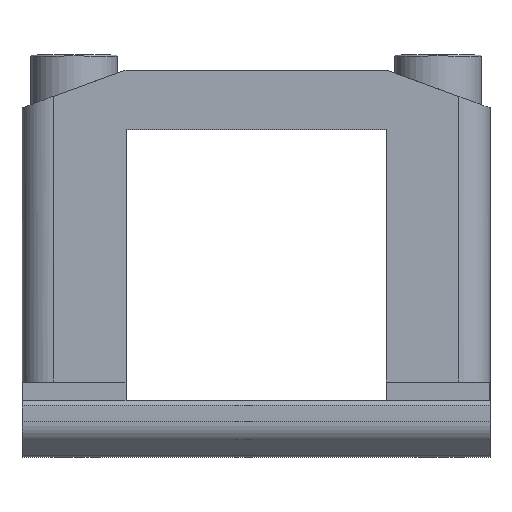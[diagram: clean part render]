
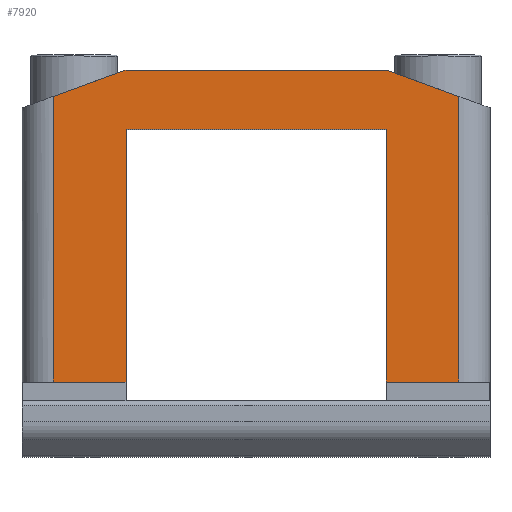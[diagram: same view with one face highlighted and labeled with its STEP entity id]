
A CAD part, top view. The second image highlights one B-rep face of the part: STEP entity #7920.
In plain terms, the highlighted planar face has unit normal (0, 0, 1).
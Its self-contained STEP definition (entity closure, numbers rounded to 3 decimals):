
#190 = DIRECTION ( 'NONE',  ( 1., 0., 0. ) ) ;
#236 = LINE ( 'NONE', #9279, #3725 ) ;
#345 = VECTOR ( 'NONE', #4403, 1000. ) ;
#505 = VECTOR ( 'NONE', #1429, 1000. ) ;
#705 = VERTEX_POINT ( 'NONE', #877 ) ;
#814 = ORIENTED_EDGE ( 'NONE', *, *, #3921, .T. ) ;
#848 = EDGE_CURVE ( 'NONE', #7275, #1673, #6896, .T. ) ;
#877 = CARTESIAN_POINT ( 'NONE',  ( 19.5, 0., 6. ) ) ;
#1048 = CARTESIAN_POINT ( 'NONE',  ( 22.5, 0., 6. ) ) ;
#1365 = LINE ( 'NONE', #8701, #8983 ) ;
#1390 = FACE_OUTER_BOUND ( 'NONE', #4429, .T. ) ;
#1392 = CARTESIAN_POINT ( 'NONE',  ( 19.5, 26.36, 6. ) ) ;
#1429 = DIRECTION ( 'NONE',  ( 0., -1., 0. ) ) ;
#1451 = ORIENTED_EDGE ( 'NONE', *, *, #3916, .T. ) ;
#1484 = VERTEX_POINT ( 'NONE', #9124 ) ;
#1488 = DIRECTION ( 'NONE',  ( -1., 0., 0. ) ) ;
#1548 = VECTOR ( 'NONE', #1695, 1000. ) ;
#1556 = VECTOR ( 'NONE', #8665, 1000. ) ;
#1673 = VERTEX_POINT ( 'NONE', #3074 ) ;
#1695 = DIRECTION ( 'NONE',  ( 1., 0., 0. ) ) ;
#1755 = CARTESIAN_POINT ( 'NONE',  ( -12.5, 24.3, 6. ) ) ;
#1879 = LINE ( 'NONE', #7858, #8586 ) ;
#1955 = CARTESIAN_POINT ( 'NONE',  ( -19.5, 27.452, 6. ) ) ;
#2204 = LINE ( 'NONE', #2313, #345 ) ;
#2313 = CARTESIAN_POINT ( 'NONE',  ( -12.5, -1.8, 6. ) ) ;
#2355 = ORIENTED_EDGE ( 'NONE', *, *, #5608, .F. ) ;
#2417 = DIRECTION ( 'NONE',  ( -1., 0., 0. ) ) ;
#2447 = VERTEX_POINT ( 'NONE', #8544 ) ;
#2542 = ORIENTED_EDGE ( 'NONE', *, *, #848, .F. ) ;
#2691 = EDGE_CURVE ( 'NONE', #1673, #2901, #1365, .T. ) ;
#2793 = CARTESIAN_POINT ( 'NONE',  ( -19.5, 0., 6. ) ) ;
#2901 = VERTEX_POINT ( 'NONE', #9301 ) ;
#2963 = CARTESIAN_POINT ( 'NONE',  ( 12.5, 30., 6. ) ) ;
#3011 = ORIENTED_EDGE ( 'NONE', *, *, #4684, .T. ) ;
#3074 = CARTESIAN_POINT ( 'NONE',  ( -12.5, 30., 6. ) ) ;
#3126 = CARTESIAN_POINT ( 'NONE',  ( 0., 0., 6. ) ) ;
#3183 = VERTEX_POINT ( 'NONE', #1755 ) ;
#3725 = VECTOR ( 'NONE', #4888, 1000. ) ;
#3813 = DIRECTION ( 'NONE',  ( -1., 0., 0. ) ) ;
#3916 = EDGE_CURVE ( 'NONE', #1484, #8818, #236, .T. ) ;
#3921 = EDGE_CURVE ( 'NONE', #7275, #9201, #6447, .T. ) ;
#4015 = EDGE_CURVE ( 'NONE', #6347, #9201, #1879, .T. ) ;
#4137 = EDGE_CURVE ( 'NONE', #6347, #3183, #2204, .T. ) ;
#4258 = EDGE_CURVE ( 'NONE', #3183, #1484, #7376, .T. ) ;
#4359 = ORIENTED_EDGE ( 'NONE', *, *, #2691, .F. ) ;
#4385 = VECTOR ( 'NONE', #6995, 1000. ) ;
#4403 = DIRECTION ( 'NONE',  ( 0., 1., 0. ) ) ;
#4429 = EDGE_LOOP ( 'NONE', ( #2542, #814, #7396, #7904, #7883, #1451, #8428, #3011, #2355, #4359 ) ) ;
#4587 = CARTESIAN_POINT ( 'NONE',  ( -12.5, 0., 6. ) ) ;
#4684 = EDGE_CURVE ( 'NONE', #705, #2447, #6220, .T. ) ;
#4888 = DIRECTION ( 'NONE',  ( 0., -1., 0. ) ) ;
#5221 = LINE ( 'NONE', #1048, #9179 ) ;
#5608 = EDGE_CURVE ( 'NONE', #2901, #2447, #8452, .T. ) ;
#6220 = LINE ( 'NONE', #1392, #4385 ) ;
#6289 = EDGE_CURVE ( 'NONE', #705, #8818, #5221, .T. ) ;
#6347 = VERTEX_POINT ( 'NONE', #4587 ) ;
#6418 = VECTOR ( 'NONE', #6446, 1000. ) ;
#6446 = DIRECTION ( 'NONE',  ( 0.94, -0.342, 0. ) ) ;
#6447 = LINE ( 'NONE', #7753, #505 ) ;
#6586 = PLANE ( 'NONE',  #7958 ) ;
#6755 = CARTESIAN_POINT ( 'NONE',  ( 12.5, 0., 6. ) ) ;
#6896 = LINE ( 'NONE', #8600, #1556 ) ;
#6995 = DIRECTION ( 'NONE',  ( 0., 1., 0. ) ) ;
#7275 = VERTEX_POINT ( 'NONE', #1955 ) ;
#7376 = LINE ( 'NONE', #8872, #1548 ) ;
#7396 = ORIENTED_EDGE ( 'NONE', *, *, #4015, .F. ) ;
#7753 = CARTESIAN_POINT ( 'NONE',  ( -19.5, 0., 6. ) ) ;
#7858 = CARTESIAN_POINT ( 'NONE',  ( 22.5, 0., 6. ) ) ;
#7883 = ORIENTED_EDGE ( 'NONE', *, *, #4258, .T. ) ;
#7904 = ORIENTED_EDGE ( 'NONE', *, *, #4137, .T. ) ;
#7920 = ADVANCED_FACE ( 'NONE', ( #1390 ), #6586, .F. ) ;
#7958 = AXIS2_PLACEMENT_3D ( 'NONE', #3126, #8114, #3813 ) ;
#8114 = DIRECTION ( 'NONE',  ( 0., 0., -1. ) ) ;
#8428 = ORIENTED_EDGE ( 'NONE', *, *, #6289, .F. ) ;
#8452 = LINE ( 'NONE', #2963, #6418 ) ;
#8544 = CARTESIAN_POINT ( 'NONE',  ( 19.5, 27.452, 6. ) ) ;
#8586 = VECTOR ( 'NONE', #1488, 1000. ) ;
#8600 = CARTESIAN_POINT ( 'NONE',  ( -22.5, 26.36, 6. ) ) ;
#8665 = DIRECTION ( 'NONE',  ( 0.94, 0.342, 0. ) ) ;
#8701 = CARTESIAN_POINT ( 'NONE',  ( -12.5, 30., 6. ) ) ;
#8818 = VERTEX_POINT ( 'NONE', #6755 ) ;
#8872 = CARTESIAN_POINT ( 'NONE',  ( -12.5, 24.3, 6. ) ) ;
#8983 = VECTOR ( 'NONE', #190, 1000. ) ;
#9124 = CARTESIAN_POINT ( 'NONE',  ( 12.5, 24.3, 6. ) ) ;
#9179 = VECTOR ( 'NONE', #2417, 1000. ) ;
#9201 = VERTEX_POINT ( 'NONE', #2793 ) ;
#9279 = CARTESIAN_POINT ( 'NONE',  ( 12.5, 24.3, 6. ) ) ;
#9301 = CARTESIAN_POINT ( 'NONE',  ( 12.5, 30., 6. ) ) ;
